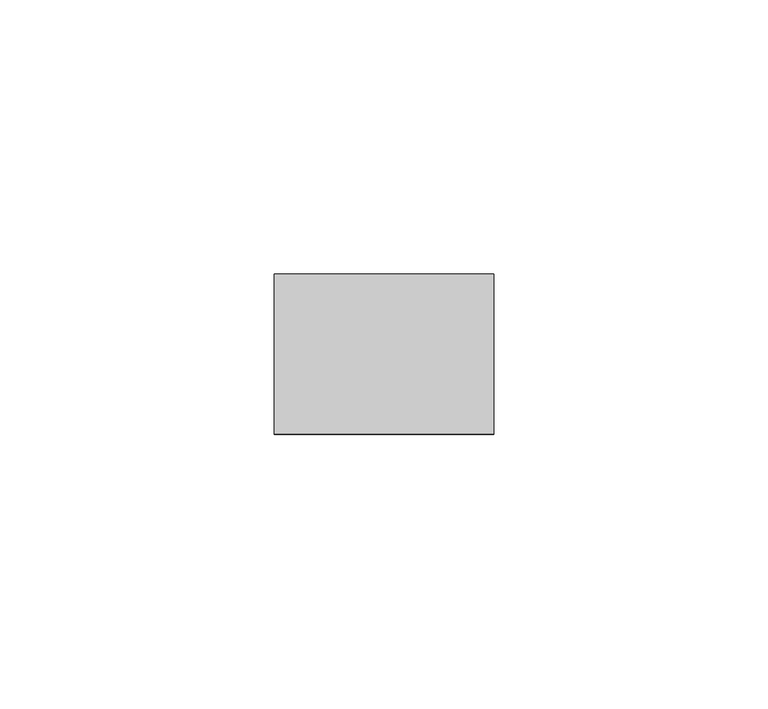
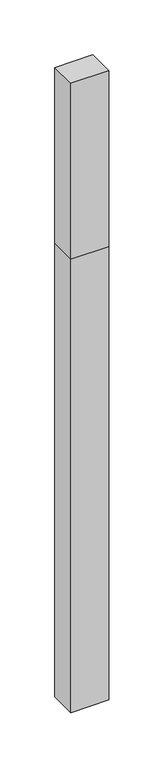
"""IFC4 building model written with IfcOpenShell, lengths in millimetres: proxy geometry, Aussenleuchten : Aussenleuchten."""

from ifc_helpers import new_model, si_unit, frame, origin, origin_with_axes, place, context, project, spatial, polyline, outline, extrude, source, transform, mapped, element, save


def electrical_equipment_811451ff(model_context):
    return source(origin(), model_context, "Body", "SweptSolid", [
        extrude(outline(polyline([(20.0, 13.6826532), (20.0, -15.5014771), (-20.0, -15.5014771), (-20.0, 13.6826532), (20.0, 13.6826532)])), frame((0.0, 0.0, 504.5288932), z_axis=(0.0, 0.0, 1.0), x_axis=(1.0, 0.0, 0.0)), (0.0, 0.0, 1.0), 195.4711068),
        extrude(outline(polyline([(20.0, 13.6826532), (20.0, -15.5014771), (-20.0, -15.5014771), (-20.0, 13.6826532), (20.0, 13.6826532)])), origin_with_axes(), (0.0, 0.0, 1.0), 504.5288932),
    ])


if __name__ == "__main__":
    model = new_model("IFC4")
    model_context = context("Model", 3, world=origin())
    ifc_project = project(units=[si_unit("LENGTHUNIT", "METRE", prefix="MILLI")], contexts=[model_context])
    site = spatial("IfcSite", under=ifc_project)
    building = spatial("IfcBuilding", under=site)
    placement = place(None, origin())
    electrical_equipment_shape = electrical_equipment_811451ff(model_context)
    element("IfcBuildingElementProxy", 1, Name="Aussenleuchten : Aussenleuchten", ObjectType="Aussenleuchten : Aussenleuchten", at=placement, inside=building, context=model_context, shape_type="MappedRepresentation", body=[
        mapped(electrical_equipment_shape, transform((0.0, 0.0, 0.0), x_axis=(1.0, 0.0, 0.0), y_axis=(0.0, 1.0, 0.0), z_axis=(0.0, 0.0, 1.0))),
    ])
    save(model, "model.ifc")
